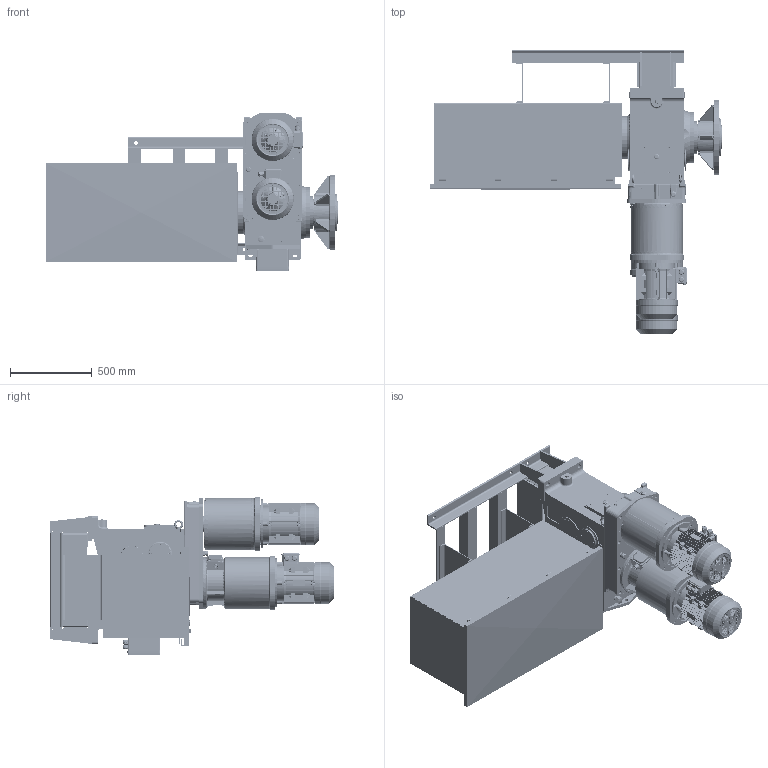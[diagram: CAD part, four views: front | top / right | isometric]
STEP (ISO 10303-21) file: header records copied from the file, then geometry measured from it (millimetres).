
FILE_DESCRIPTION(/* description */ (''),/* implementation_level */ '2;1');
FILE_NAME(/* name */ 'K:\NEMANJA\CABLE REEL\CABLE REEL DA\0700-6\07006002 DAPR-MCGBSR\STEP\75950.stp',/* time_stamp */ '2017-03-16T14:06:59+01:00',/* author */ ('vlakrc01'),/* organization */ ('Hillmar Industries Ltd.'),/* preprocessor_version */ 'ST-DEVELOPER v16.1',/* originating_system */ 'Autodesk Inventor 2016',/* authorisation */ '');
FILE_SCHEMA (('AUTOMOTIVE_DESIGN { 1 0 10303 214 3 1 1 }'));
Products named in the file (1): 75950
Bounding box: 1786.25 x 1729.71 x 965.8 mm (x, y, z)
Volume: 116648616.3 mm3; surface area: 19673547.2 mm2
Topology: 15 solids, 15 shells, 10602 faces, 28932 edges, 18659 vertices
Faces by surface type: plane 6370, cylinder 2203, bspline 969, cone 634, torus 372, sphere 54
Full cylindrical faces by diameter (mm): 3 x8, 5 x8, 7 x4, 8 x4, 8.376 x16, 8.731 x1, 10 x44, 10.106 x84, 10.38 x3, 10.5 x4, 11 x20, 11.053 x2, 12 x5, 12.5 x6, 13 x40, 13.2 x3, 13.5 x12, 14 x8, 14.3 x4, 15 x19, 16.974 x2, 17 x4, 17.2 x2, 17.336 x1, 17.475 x1, 18 x3, 18.256 x3, 18.38 x4, 20 x17, 20.5 x4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
Entity records: 367437 total; most frequent: CARTESIAN_POINT 99055, ORIENTED_EDGE 55242, DIRECTION 49147, EDGE_CURVE 27603, VERTEX_POINT 18229, LINE 17087, VECTOR 17087, AXIS2_PLACEMENT_3D 16030
